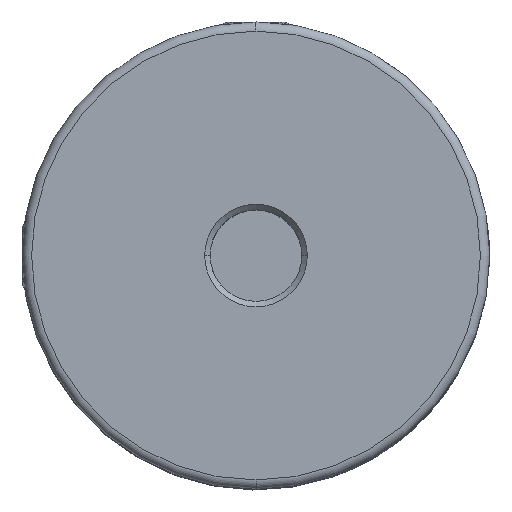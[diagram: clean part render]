
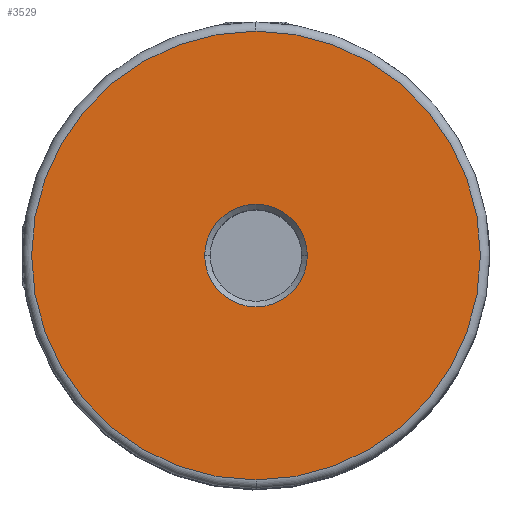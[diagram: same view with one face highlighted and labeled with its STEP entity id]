
A CAD part, top view. The second image highlights one B-rep face of the part: STEP entity #3529.
In plain terms, the highlighted planar face has unit normal (0, 0, 1).
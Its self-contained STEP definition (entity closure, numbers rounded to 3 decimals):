
#255 = CIRCLE ( 'NONE', #2690, 12.25 ) ;
#256 = CIRCLE ( 'NONE', #2689, 2.8 ) ;
#391 = CARTESIAN_POINT ( 'NONE',  ( 0., 0., 12.7 ) ) ;
#392 = DIRECTION ( 'NONE',  ( 0., 0., -1. ) ) ;
#393 = DIRECTION ( 'NONE',  ( -1., 0., 0. ) ) ;
#394 = CARTESIAN_POINT ( 'NONE',  ( 0., 0., 12.7 ) ) ;
#395 = DIRECTION ( 'NONE',  ( 0., 0., 1. ) ) ;
#396 = DIRECTION ( 'NONE',  ( 0., 1., 0. ) ) ;
#613 = CARTESIAN_POINT ( 'NONE',  ( -2.8, 0., 12.7 ) ) ;
#634 = CARTESIAN_POINT ( 'NONE',  ( 2.8, 0., 12.7 ) ) ;
#696 = CARTESIAN_POINT ( 'NONE',  ( 0., -12.25, 12.7 ) ) ;
#707 = CARTESIAN_POINT ( 'NONE',  ( 0., 12.25, 12.7 ) ) ;
#820 = CIRCLE ( 'NONE', #2716, 2.8 ) ;
#1079 = FACE_OUTER_BOUND ( 'NONE', #3001, .T. ) ;
#1085 = FACE_BOUND ( 'NONE', #3004, .T. ) ;
#1260 = CIRCLE ( 'NONE', #4610, 12.25 ) ;
#1447 = CARTESIAN_POINT ( 'NONE',  ( 0., 0., 12.7 ) ) ;
#1448 = DIRECTION ( 'NONE',  ( 0., 0., -1. ) ) ;
#1449 = DIRECTION ( 'NONE',  ( -1., 0., 0. ) ) ;
#1908 = AXIS2_PLACEMENT_3D ( 'NONE', #3895, #3900, #3901 ) ;
#2061 = VERTEX_POINT ( 'NONE', #696 ) ;
#2063 = VERTEX_POINT ( 'NONE', #707 ) ;
#2136 = VERTEX_POINT ( 'NONE', #634 ) ;
#2157 = VERTEX_POINT ( 'NONE', #613 ) ;
#2472 = EDGE_CURVE ( 'NONE', #2157, #2136, #256, .T. ) ;
#2473 = EDGE_CURVE ( 'NONE', #2063, #2061, #255, .T. ) ;
#2627 = EDGE_CURVE ( 'NONE', #2136, #2157, #820, .T. ) ;
#2689 = AXIS2_PLACEMENT_3D ( 'NONE', #391, #392, #393 ) ;
#2690 = AXIS2_PLACEMENT_3D ( 'NONE', #394, #395, #396 ) ;
#2716 = AXIS2_PLACEMENT_3D ( 'NONE', #1447, #1448, #1449 ) ;
#3001 = EDGE_LOOP ( 'NONE', ( #6523, #6521 ) ) ;
#3004 = EDGE_LOOP ( 'NONE', ( #6504, #6499 ) ) ;
#3529 = ADVANCED_FACE ( 'NONE', ( #1085, #1079 ), #3898, .F. ) ;
#3895 = CARTESIAN_POINT ( 'NONE',  ( 0., 0., 12.7 ) ) ;
#3898 = PLANE ( 'NONE',  #1908 ) ;
#3900 = DIRECTION ( 'NONE',  ( 0., 0., -1. ) ) ;
#3901 = DIRECTION ( 'NONE',  ( 0., 1., 0. ) ) ;
#4365 = CARTESIAN_POINT ( 'NONE',  ( 0., 0., 12.7 ) ) ;
#4366 = DIRECTION ( 'NONE',  ( 0., 0., 1. ) ) ;
#4367 = DIRECTION ( 'NONE',  ( 0., 1., 0. ) ) ;
#4610 = AXIS2_PLACEMENT_3D ( 'NONE', #4365, #4366, #4367 ) ;
#6119 = EDGE_CURVE ( 'NONE', #2061, #2063, #1260, .T. ) ;
#6499 = ORIENTED_EDGE ( 'NONE', *, *, #2472, .T. ) ;
#6504 = ORIENTED_EDGE ( 'NONE', *, *, #2627, .T. ) ;
#6521 = ORIENTED_EDGE ( 'NONE', *, *, #6119, .T. ) ;
#6523 = ORIENTED_EDGE ( 'NONE', *, *, #2473, .T. ) ;
